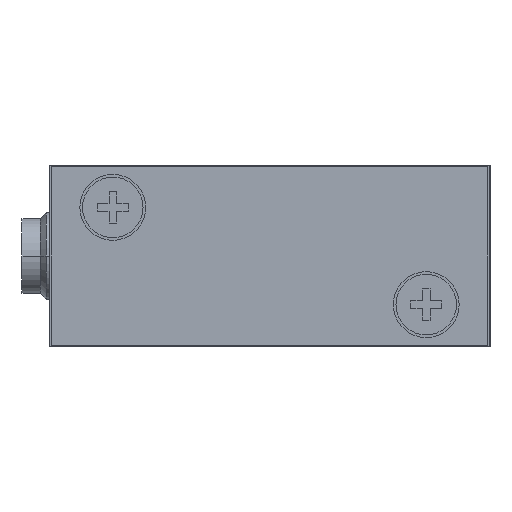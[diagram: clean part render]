
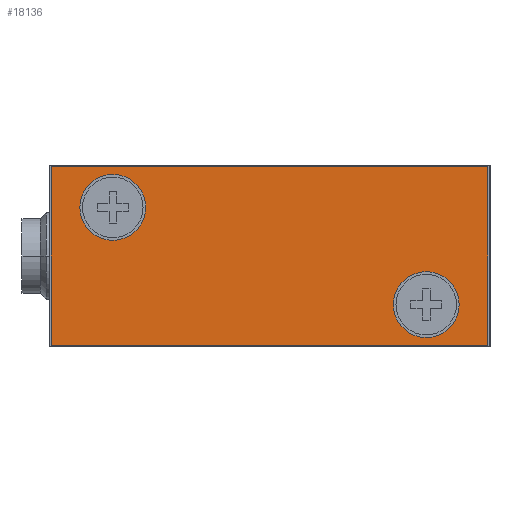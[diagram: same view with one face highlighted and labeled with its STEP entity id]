
A CAD part, left-side view. The second image highlights one B-rep face of the part: STEP entity #18136.
In plain terms, the highlighted planar face has unit normal (-1, 0, 0).
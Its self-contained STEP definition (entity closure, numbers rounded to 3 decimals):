
#6334=DIRECTION('',(0.,-1.,0.));
#6335=VECTOR('',#6334,40.4);
#6336=CARTESIAN_POINT('',(-43.,20.2,-8.25));
#6337=LINE('',#6336,#6335);
#6338=DIRECTION('',(0.,0.,-1.));
#6339=VECTOR('',#6338,16.5);
#6340=CARTESIAN_POINT('',(-43.,20.2,8.25));
#6341=LINE('',#6340,#6339);
#6342=DIRECTION('',(0.,1.,0.));
#6343=VECTOR('',#6342,40.4);
#6344=CARTESIAN_POINT('',(-43.,-20.2,8.25));
#6345=LINE('',#6344,#6343);
#6346=DIRECTION('',(0.,0.,1.));
#6347=VECTOR('',#6346,16.5);
#6348=CARTESIAN_POINT('',(-43.,-20.2,-8.25));
#6349=LINE('',#6348,#6347);
#6350=CARTESIAN_POINT('',(-43.,14.5,4.5));
#6351=DIRECTION('',(-1.,0.,0.));
#6352=DIRECTION('',(0.,0.,1.));
#6353=AXIS2_PLACEMENT_3D('',#6350,#6351,#6352);
#6355=CARTESIAN_POINT('',(-43.,14.5,4.5));
#6356=DIRECTION('',(-1.,0.,0.));
#6357=DIRECTION('',(0.,0.,-1.));
#6358=AXIS2_PLACEMENT_3D('',#6355,#6356,#6357);
#6360=CARTESIAN_POINT('',(-43.,-14.5,-4.5));
#6361=DIRECTION('',(-1.,0.,0.));
#6362=DIRECTION('',(0.,0.,1.));
#6363=AXIS2_PLACEMENT_3D('',#6360,#6361,#6362);
#6365=CARTESIAN_POINT('',(-43.,-14.5,-4.5));
#6366=DIRECTION('',(-1.,0.,0.));
#6367=DIRECTION('',(0.,0.,-1.));
#6368=AXIS2_PLACEMENT_3D('',#6365,#6366,#6367);
#7012=CARTESIAN_POINT('',(-43.,20.2,-8.25));
#7013=CARTESIAN_POINT('',(-43.,-20.2,-8.25));
#7014=VERTEX_POINT('',#7012);
#7015=VERTEX_POINT('',#7013);
#7016=CARTESIAN_POINT('',(-43.,-20.2,8.25));
#7017=VERTEX_POINT('',#7016);
#7018=CARTESIAN_POINT('',(-43.,20.2,8.25));
#7019=VERTEX_POINT('',#7018);
#7036=CARTESIAN_POINT('',(-43.,14.5,7.55));
#7037=CARTESIAN_POINT('',(-43.,14.5,1.45));
#7038=VERTEX_POINT('',#7036);
#7039=VERTEX_POINT('',#7037);
#7040=CARTESIAN_POINT('',(-43.,-14.5,-1.45));
#7041=CARTESIAN_POINT('',(-43.,-14.5,-7.55));
#7042=VERTEX_POINT('',#7040);
#7043=VERTEX_POINT('',#7041);
#18113=CARTESIAN_POINT('',(-43.,0.,-8.4));
#18114=DIRECTION('',(-1.,0.,0.));
#18115=DIRECTION('',(0.,0.,1.));
#18116=AXIS2_PLACEMENT_3D('',#18113,#18114,#18115);
#18117=PLANE('',#18116);
#18118=ORIENTED_EDGE('',*,*,#18065,.F.);
#18119=ORIENTED_EDGE('',*,*,#18080,.F.);
#18120=ORIENTED_EDGE('',*,*,#18094,.F.);
#18121=ORIENTED_EDGE('',*,*,#18107,.F.);
#18122=EDGE_LOOP('',(#18118,#18119,#18120,#18121));
#18123=FACE_OUTER_BOUND('',#18122,.F.);
#18125=ORIENTED_EDGE('',*,*,#18124,.T.);
#18127=ORIENTED_EDGE('',*,*,#18126,.T.);
#18128=EDGE_LOOP('',(#18125,#18127));
#18129=FACE_BOUND('',#18128,.F.);
#18131=ORIENTED_EDGE('',*,*,#18130,.T.);
#18133=ORIENTED_EDGE('',*,*,#18132,.T.);
#18134=EDGE_LOOP('',(#18131,#18133));
#18135=FACE_BOUND('',#18134,.F.);
#18136=ADVANCED_FACE('',(#18123,#18129,#18135),#18117,.T.);
#6354=CIRCLE('',#6353,3.05);
#6359=CIRCLE('',#6358,3.05);
#6364=CIRCLE('',#6363,3.05);
#6369=CIRCLE('',#6368,3.05);
#18065=EDGE_CURVE('',#7014,#7015,#6337,.T.);
#18080=EDGE_CURVE('',#7019,#7014,#6341,.T.);
#18094=EDGE_CURVE('',#7017,#7019,#6345,.T.);
#18107=EDGE_CURVE('',#7015,#7017,#6349,.T.);
#18124=EDGE_CURVE('',#7038,#7039,#6354,.T.);
#18126=EDGE_CURVE('',#7039,#7038,#6359,.T.);
#18130=EDGE_CURVE('',#7042,#7043,#6364,.T.);
#18132=EDGE_CURVE('',#7043,#7042,#6369,.T.);
